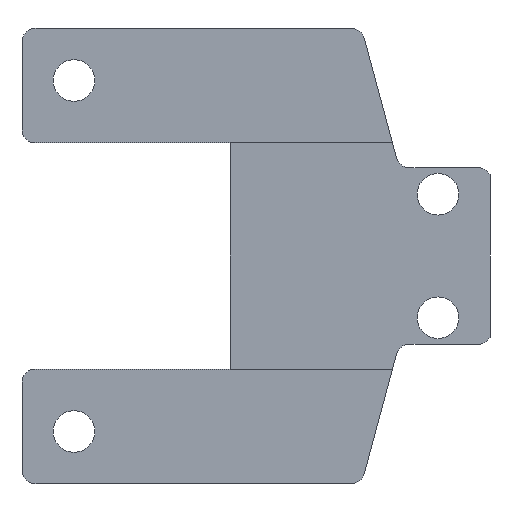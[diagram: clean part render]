
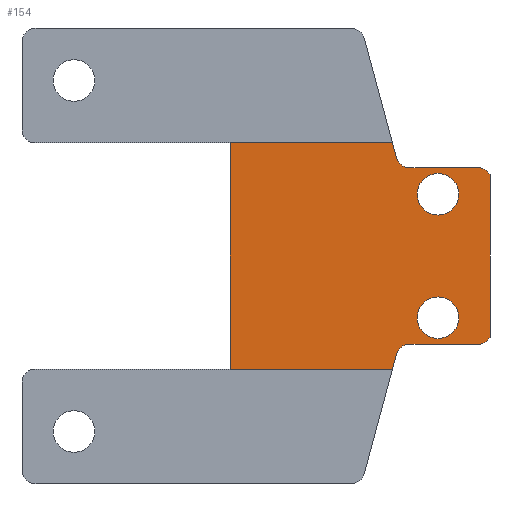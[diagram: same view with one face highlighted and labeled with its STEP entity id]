
A CAD part, left-side view. The second image highlights one B-rep face of the part: STEP entity #154.
In plain terms, the highlighted planar face has unit normal (-1, 0, 0).
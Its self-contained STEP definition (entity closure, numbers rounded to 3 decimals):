
#11 = LINE ( 'NONE', #434, #1080 ) ;
#41 = CARTESIAN_POINT ( 'NONE',  ( 0., 7.199, -7.541 ) ) ;
#43 = AXIS2_PLACEMENT_3D ( 'NONE', #204, #275, #172 ) ;
#49 = ORIENTED_EDGE ( 'NONE', *, *, #724, .T. ) ;
#51 = EDGE_CURVE ( 'NONE', #1188, #296, #1141, .T. ) ;
#70 = DIRECTION ( 'NONE',  ( 0., 0., 1. ) ) ;
#74 = CARTESIAN_POINT ( 'NONE',  ( 0., 0., -6.236 ) ) ;
#86 = VERTEX_POINT ( 'NONE', #1161 ) ;
#94 = CARTESIAN_POINT ( 'NONE',  ( 0., 9.668, 16.759 ) ) ;
#98 = VECTOR ( 'NONE', #1104, 1000. ) ;
#118 = CARTESIAN_POINT ( 'NONE',  ( 0., 7.199, -7.541 ) ) ;
#122 = VERTEX_POINT ( 'NONE', #481 ) ;
#123 = AXIS2_PLACEMENT_3D ( 'NONE', #831, #1268, #311 ) ;
#128 = DIRECTION ( 'NONE',  ( 0., 0., -1. ) ) ;
#133 = VECTOR ( 'NONE', #70, 1000. ) ;
#139 = CARTESIAN_POINT ( 'NONE',  ( 0., 4., -3.15 ) ) ;
#149 = DIRECTION ( 'NONE',  ( 0., 1., 0. ) ) ;
#150 = LINE ( 'NONE', #338, #98 ) ;
#151 = DIRECTION ( 'NONE',  ( 0., 0., -1. ) ) ;
#154 = ADVANCED_FACE ( 'NONE', ( #256, #1028, #242 ), #671, .F. ) ;
#165 = CIRCLE ( 'NONE', #769, 1. ) ;
#166 = EDGE_CURVE ( 'NONE', #436, #975, #469, .T. ) ;
#172 = DIRECTION ( 'NONE',  ( 0., 0., -1. ) ) ;
#173 = EDGE_LOOP ( 'NONE', ( #449, #1307 ) ) ;
#179 = CIRCLE ( 'NONE', #43, 1.6 ) ;
#181 = VECTOR ( 'NONE', #853, 1000. ) ;
#196 = DIRECTION ( 'NONE',  ( 0., -1., 0. ) ) ;
#200 = CARTESIAN_POINT ( 'NONE',  ( 0., 4., 6.35 ) ) ;
#204 = CARTESIAN_POINT ( 'NONE',  ( 0., 4., 4.75 ) ) ;
#242 = FACE_BOUND ( 'NONE', #1232, .T. ) ;
#243 = CARTESIAN_POINT ( 'NONE',  ( 0., 4., -4.75 ) ) ;
#256 = FACE_OUTER_BOUND ( 'NONE', #1042, .T. ) ;
#266 = ORIENTED_EDGE ( 'NONE', *, *, #625, .F. ) ;
#275 = DIRECTION ( 'NONE',  ( 1., 0., 0. ) ) ;
#276 = ORIENTED_EDGE ( 'NONE', *, *, #877, .F. ) ;
#277 = DIRECTION ( 'NONE',  ( 1., 0., 0. ) ) ;
#296 = VERTEX_POINT ( 'NONE', #320 ) ;
#310 = ORIENTED_EDGE ( 'NONE', *, *, #166, .F. ) ;
#311 = DIRECTION ( 'NONE',  ( 0., 0., -1. ) ) ;
#320 = CARTESIAN_POINT ( 'NONE',  ( 0., 7.199, 7.541 ) ) ;
#329 = CARTESIAN_POINT ( 'NONE',  ( 0., 4., -4.75 ) ) ;
#338 = CARTESIAN_POINT ( 'NONE',  ( 0., 20., -8.7 ) ) ;
#345 = DIRECTION ( 'NONE',  ( 1., 0., 0. ) ) ;
#347 = AXIS2_PLACEMENT_3D ( 'NONE', #712, #277, #1047 ) ;
#350 = AXIS2_PLACEMENT_3D ( 'NONE', #580, #1350, #594 ) ;
#382 = EDGE_CURVE ( 'NONE', #86, #122, #11, .T. ) ;
#395 = CARTESIAN_POINT ( 'NONE',  ( 0., 6.233, -6.8 ) ) ;
#405 = AXIS2_PLACEMENT_3D ( 'NONE', #243, #1001, #787 ) ;
#427 = EDGE_CURVE ( 'NONE', #981, #543, #179, .T. ) ;
#434 = CARTESIAN_POINT ( 'NONE',  ( 0., 37., 8.7 ) ) ;
#436 = VERTEX_POINT ( 'NONE', #495 ) ;
#439 = DIRECTION ( 'NONE',  ( 1., 0., 0. ) ) ;
#449 = ORIENTED_EDGE ( 'NONE', *, *, #1349, .T. ) ;
#451 = ORIENTED_EDGE ( 'NONE', *, *, #553, .F. ) ;
#455 = ORIENTED_EDGE ( 'NONE', *, *, #977, .F. ) ;
#459 = CIRCLE ( 'NONE', #713, 1.6 ) ;
#460 = CARTESIAN_POINT ( 'NONE',  ( 0., 37., -8.7 ) ) ;
#469 = LINE ( 'NONE', #586, #827 ) ;
#476 = CARTESIAN_POINT ( 'NONE',  ( 0., 0., -8.7 ) ) ;
#481 = CARTESIAN_POINT ( 'NONE',  ( 0., 7.509, 8.7 ) ) ;
#495 = CARTESIAN_POINT ( 'NONE',  ( 0., 0.9, -6.8 ) ) ;
#530 = ORIENTED_EDGE ( 'NONE', *, *, #941, .T. ) ;
#532 = CIRCLE ( 'NONE', #350, 1. ) ;
#535 = VERTEX_POINT ( 'NONE', #627 ) ;
#539 = DIRECTION ( 'NONE',  ( 0., 0.259, -0.966 ) ) ;
#543 = VERTEX_POINT ( 'NONE', #919 ) ;
#550 = DIRECTION ( 'NONE',  ( 0., 0., -1. ) ) ;
#553 = EDGE_CURVE ( 'NONE', #122, #296, #1289, .T. ) ;
#554 = CIRCLE ( 'NONE', #123, 1. ) ;
#557 = CARTESIAN_POINT ( 'NONE',  ( 0., 4., 4.75 ) ) ;
#561 = VECTOR ( 'NONE', #196, 1000. ) ;
#575 = CARTESIAN_POINT ( 'NONE',  ( 0., 7.509, -8.7 ) ) ;
#580 = CARTESIAN_POINT ( 'NONE',  ( 0., 0.9, -5.8 ) ) ;
#586 = CARTESIAN_POINT ( 'NONE',  ( 0., 0.9, -6.8 ) ) ;
#594 = DIRECTION ( 'NONE',  ( 0., 0., -1. ) ) ;
#625 = EDGE_CURVE ( 'NONE', #756, #753, #1079, .T. ) ;
#626 = DIRECTION ( 'NONE',  ( 0., -1., 0. ) ) ;
#627 = CARTESIAN_POINT ( 'NONE',  ( 0., 0.9, 6.8 ) ) ;
#633 = VECTOR ( 'NONE', #626, 1000. ) ;
#662 = EDGE_CURVE ( 'NONE', #1393, #1106, #1015, .T. ) ;
#671 = PLANE ( 'NONE',  #1030 ) ;
#689 = ORIENTED_EDGE ( 'NONE', *, *, #427, .T. ) ;
#693 = LINE ( 'NONE', #476, #133 ) ;
#712 = CARTESIAN_POINT ( 'NONE',  ( 0., 6.233, 7.8 ) ) ;
#713 = AXIS2_PLACEMENT_3D ( 'NONE', #557, #345, #128 ) ;
#724 = EDGE_CURVE ( 'NONE', #756, #975, #165, .T. ) ;
#730 = CARTESIAN_POINT ( 'NONE',  ( 0., 6.233, 6.8 ) ) ;
#741 = EDGE_CURVE ( 'NONE', #940, #86, #150, .T. ) ;
#753 = VERTEX_POINT ( 'NONE', #575 ) ;
#756 = VERTEX_POINT ( 'NONE', #41 ) ;
#769 = AXIS2_PLACEMENT_3D ( 'NONE', #989, #890, #550 ) ;
#787 = DIRECTION ( 'NONE',  ( 0., 0., -1. ) ) ;
#788 = CARTESIAN_POINT ( 'NONE',  ( 0., 4., -6.35 ) ) ;
#798 = EDGE_CURVE ( 'NONE', #543, #981, #459, .T. ) ;
#804 = CARTESIAN_POINT ( 'NONE',  ( 0., 0., 6.236 ) ) ;
#827 = VECTOR ( 'NONE', #149, 1000. ) ;
#831 = CARTESIAN_POINT ( 'NONE',  ( 0., 0.9, 5.8 ) ) ;
#853 = DIRECTION ( 'NONE',  ( 0., -0.259, -0.966 ) ) ;
#869 = DIRECTION ( 'NONE',  ( 0., -1., 0. ) ) ;
#876 = ORIENTED_EDGE ( 'NONE', *, *, #1297, .F. ) ;
#877 = EDGE_CURVE ( 'NONE', #1195, #436, #532, .T. ) ;
#882 = AXIS2_PLACEMENT_3D ( 'NONE', #329, #439, #151 ) ;
#890 = DIRECTION ( 'NONE',  ( 1., 0., 0. ) ) ;
#899 = DIRECTION ( 'NONE',  ( 1., 0., 0. ) ) ;
#919 = CARTESIAN_POINT ( 'NONE',  ( 0., 4., 3.15 ) ) ;
#922 = CARTESIAN_POINT ( 'NONE',  ( 0., 20., -8.7 ) ) ;
#940 = VERTEX_POINT ( 'NONE', #922 ) ;
#941 = EDGE_CURVE ( 'NONE', #1195, #1139, #693, .T. ) ;
#961 = ORIENTED_EDGE ( 'NONE', *, *, #382, .F. ) ;
#975 = VERTEX_POINT ( 'NONE', #395 ) ;
#977 = EDGE_CURVE ( 'NONE', #535, #1139, #554, .T. ) ;
#981 = VERTEX_POINT ( 'NONE', #200 ) ;
#989 = CARTESIAN_POINT ( 'NONE',  ( 0., 6.233, -7.8 ) ) ;
#1001 = DIRECTION ( 'NONE',  ( 1., 0., 0. ) ) ;
#1015 = CIRCLE ( 'NONE', #405, 1.6 ) ;
#1027 = VECTOR ( 'NONE', #539, 1000. ) ;
#1028 = FACE_BOUND ( 'NONE', #173, .T. ) ;
#1030 = AXIS2_PLACEMENT_3D ( 'NONE', #460, #899, #1216 ) ;
#1042 = EDGE_LOOP ( 'NONE', ( #961, #1155, #1073, #266, #49, #310, #276, #530, #455, #876, #1189, #451 ) ) ;
#1045 = LINE ( 'NONE', #1168, #561 ) ;
#1047 = DIRECTION ( 'NONE',  ( 0., 0., -1. ) ) ;
#1073 = ORIENTED_EDGE ( 'NONE', *, *, #1278, .T. ) ;
#1079 = LINE ( 'NONE', #118, #1027 ) ;
#1080 = VECTOR ( 'NONE', #869, 1000. ) ;
#1104 = DIRECTION ( 'NONE',  ( 0., 0., 1. ) ) ;
#1106 = VERTEX_POINT ( 'NONE', #139 ) ;
#1139 = VERTEX_POINT ( 'NONE', #804 ) ;
#1141 = CIRCLE ( 'NONE', #347, 1. ) ;
#1150 = LINE ( 'NONE', #1247, #633 ) ;
#1155 = ORIENTED_EDGE ( 'NONE', *, *, #741, .F. ) ;
#1161 = CARTESIAN_POINT ( 'NONE',  ( 0., 20., 8.7 ) ) ;
#1168 = CARTESIAN_POINT ( 'NONE',  ( 0., 6.233, 6.8 ) ) ;
#1188 = VERTEX_POINT ( 'NONE', #730 ) ;
#1189 = ORIENTED_EDGE ( 'NONE', *, *, #51, .T. ) ;
#1195 = VERTEX_POINT ( 'NONE', #74 ) ;
#1216 = DIRECTION ( 'NONE',  ( 0., 1., 0. ) ) ;
#1232 = EDGE_LOOP ( 'NONE', ( #689, #1239 ) ) ;
#1239 = ORIENTED_EDGE ( 'NONE', *, *, #798, .T. ) ;
#1247 = CARTESIAN_POINT ( 'NONE',  ( 0., 37., -8.7 ) ) ;
#1268 = DIRECTION ( 'NONE',  ( 1., 0., 0. ) ) ;
#1278 = EDGE_CURVE ( 'NONE', #940, #753, #1150, .T. ) ;
#1289 = LINE ( 'NONE', #94, #181 ) ;
#1290 = CIRCLE ( 'NONE', #882, 1.6 ) ;
#1297 = EDGE_CURVE ( 'NONE', #1188, #535, #1045, .T. ) ;
#1307 = ORIENTED_EDGE ( 'NONE', *, *, #662, .T. ) ;
#1349 = EDGE_CURVE ( 'NONE', #1106, #1393, #1290, .T. ) ;
#1350 = DIRECTION ( 'NONE',  ( 1., 0., 0. ) ) ;
#1393 = VERTEX_POINT ( 'NONE', #788 ) ;
